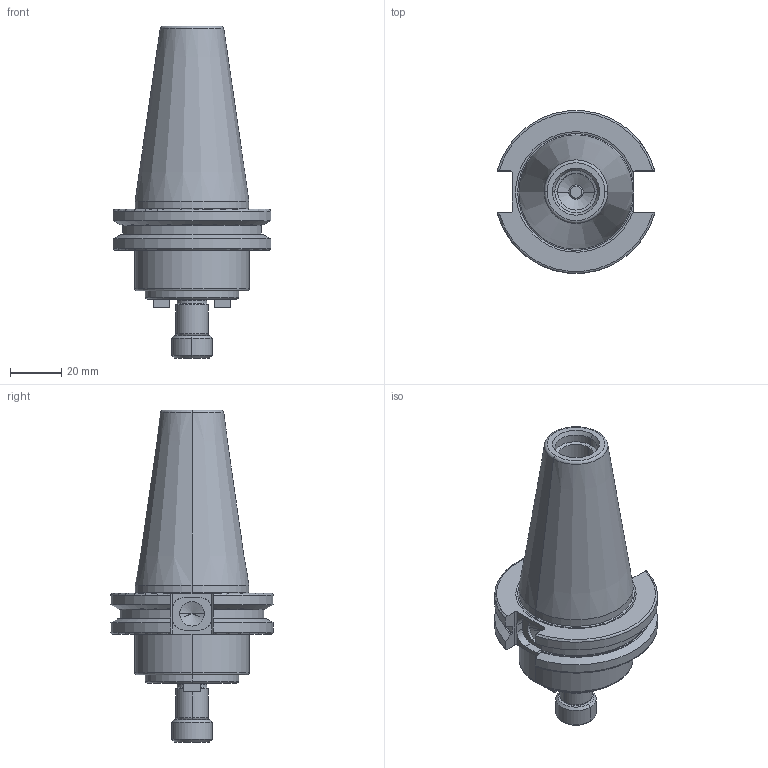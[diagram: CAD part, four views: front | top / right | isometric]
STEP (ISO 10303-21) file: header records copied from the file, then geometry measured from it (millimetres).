
FILE_DESCRIPTION (( 'STEP AP214' ), '1' );
FILE_NAME ('RC4SM0500150.STEP', '2019-02-08T18:59:58', ( '' ), ( '' ), 'SwSTEP 2.0', 'SolidWorks 2019', '' );
FILE_SCHEMA (( 'AUTOMOTIVE_DESIGN' ));
Length unit declared in the file: inch
Products named in the file (1): RC4SM0500150
Bounding box: 61.35 x 63.26 x 129.32 mm (x, y, z)
Volume: 128793.5 mm3; surface area: 25926.7 mm2
Topology: 1 solids, 4 shells, 234 faces, 600 edges, 362 vertices
Faces by surface type: plane 79, cone 69, cylinder 58, torus 28
Entity records: 8601 total; most frequent: CARTESIAN_POINT 1873, DIRECTION 1229, ORIENTED_EDGE 1176, EDGE_CURVE 588, AXIS2_PLACEMENT_3D 480, VERTEX_POINT 362, VECTOR 269, LINE 269
